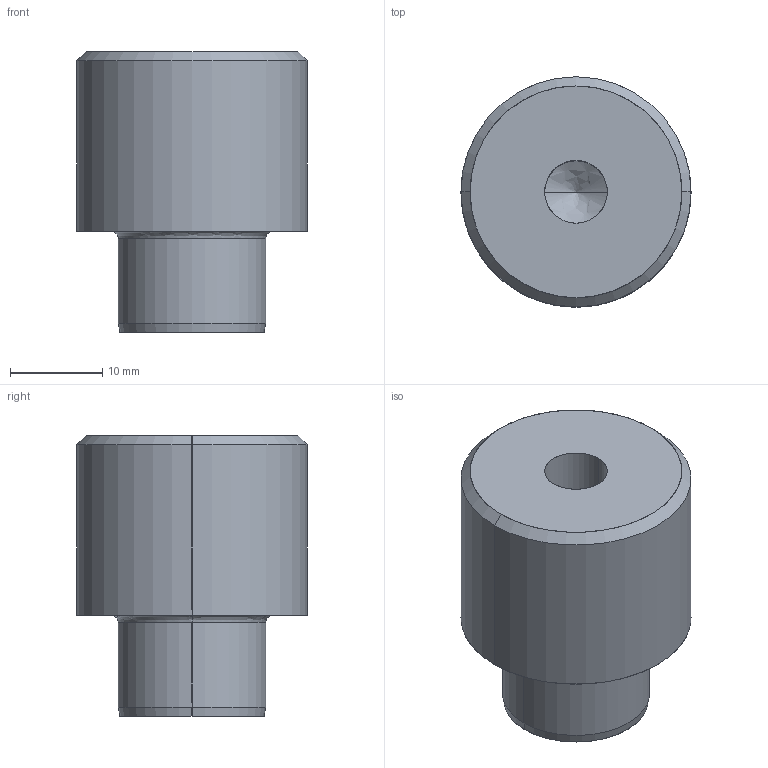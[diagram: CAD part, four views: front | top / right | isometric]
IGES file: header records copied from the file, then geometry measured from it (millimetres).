
Start section: SolidWorks IGES file using analytic representation for surfaces
Global section: file name: D:\Current\W1\TPNFP25-11.igs; native system: SolidWorks 2017; preprocessor: SolidWorks 2017; author: Ravi Kalvai; date: 240430.153302; units: millimetre
Bounding box: 25 x 25 x 30.5 mm (x, y, z)
Surface area: 3405.3 mm2 (no closed solid volume)
Topology: 0 solids, 0 shells, 17 faces, 216 edges, 214 vertices
Faces by surface type: revolution 12, bspline 5
